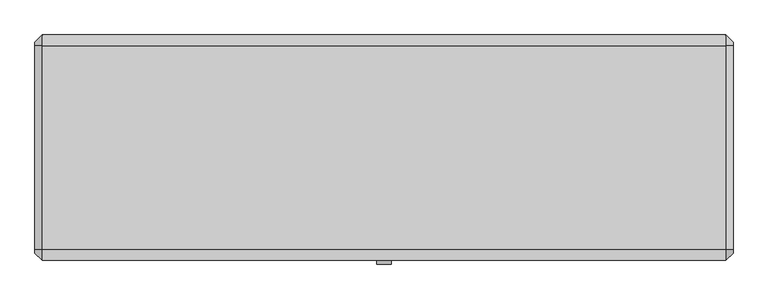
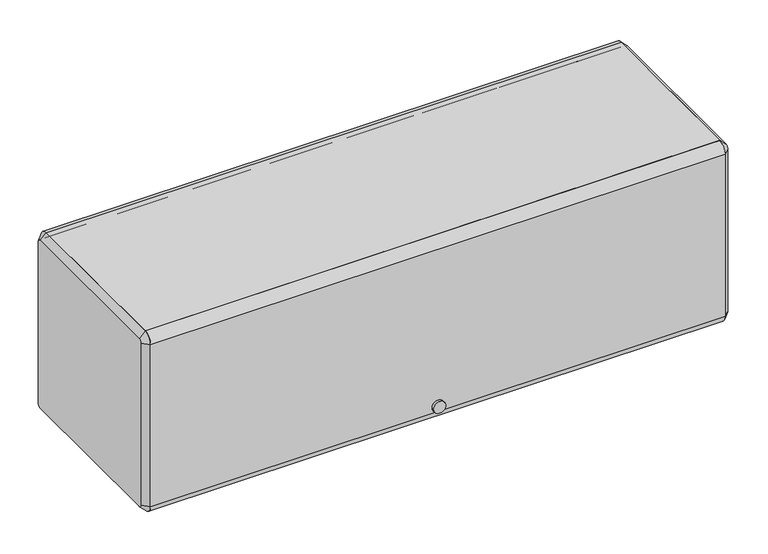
"""IFC4 building model written with IfcOpenShell, lengths in millimetres: furniture geometry."""

from ifc_helpers import new_model, si_unit, point, frame, frame_2d, origin, place, context, project, spatial, polyline, circle_curve, trimmed, segment, composite_curve, outline, extrude, source, transform, mapped, element, save
from ifc_brep_helpers import plane_surface, revolved_surface, advanced_brep


def furniture_82a65ebb(model_context):
    return source(origin(), model_context, "Body", "SolidModel", [
        extrude(outline(composite_curve([segment(polyline([(-165.1, 2089.15), (-165.1, 2101.85), (190.5, 2101.85)]), True, "CONTINUOUS"), segment(trimmed(circle_curve(frame_2d((190.5, 2082.8)), 19.05), [point((190.5, 2101.85))], [point((209.55, 2082.8))], False, "CARTESIAN"), True, "CONTINUOUS"), segment(polyline([(209.55, 2082.8), (196.85, 2082.8)]), True, "CONTINUOUS"), segment(trimmed(circle_curve(frame_2d((190.5, 2082.8)), 6.35), [point((196.85, 2082.8))], [point((190.5, 2089.15))], True, "CARTESIAN"), True, "CONTINUOUS"), segment(polyline([(190.5, 2089.15), (-165.1, 2089.15)]), True, "CONTINUOUS")], self_intersect=False)), frame((-596.9, 0.0, 0.0), z_axis=(1.0, 0.0, 0.0), x_axis=(0.0, 1.0, 0.0)), (0.0, 0.0, 1.0), 1193.8),
        extrude(outline(composite_curve([segment(trimmed(circle_curve(frame_2d((-165.1, 2082.8)), 19.05), [point((-184.15, 2082.8))], [point((-165.1, 2101.85))], False, "CARTESIAN"), True, "CONTINUOUS"), segment(polyline([(-165.1, 2101.85), (-165.1, 2089.15)]), True, "CONTINUOUS"), segment(trimmed(circle_curve(frame_2d((-165.1, 2082.8)), 6.35), [point((-165.1, 2089.15))], [point((-171.45, 2082.8))], True, "CARTESIAN"), True, "CONTINUOUS"), segment(polyline([(-171.45, 2082.8), (-171.45, 1727.2)]), True, "CONTINUOUS"), segment(trimmed(circle_curve(frame_2d((-165.1, 1727.2)), 6.35), [point((-171.45, 1727.2))], [point((-165.1, 1720.85))], True, "CARTESIAN"), True, "CONTINUOUS"), segment(polyline([(-165.1, 1720.85), (-165.1, 1708.15)]), True, "CONTINUOUS"), segment(trimmed(circle_curve(frame_2d((-165.1, 1727.2)), 19.05), [point((-165.1, 1708.15))], [point((-184.15, 1727.2))], False, "CARTESIAN"), True, "CONTINUOUS"), segment(polyline([(-184.15, 1727.2), (-184.15, 2082.8)]), True, "CONTINUOUS")], self_intersect=False)), frame((-596.9, 0.0, 0.0), z_axis=(1.0, 0.0, 0.0), x_axis=(0.0, 1.0, 0.0)), (0.0, 0.0, 1.0), 1193.8),
        extrude(outline(composite_curve([segment(trimmed(circle_curve(frame_2d((1739.8618906, 0.0201199)), 12.7253951), [point((1739.8618906, 12.745515))], [point((1739.8618906, -12.7052752))], False, "CARTESIAN"), True, "CONTINUOUS"), segment(trimmed(circle_curve(frame_2d((1739.8618906, 0.0201199)), 12.7253951), [point((1739.8618906, -12.7052752))], [point((1739.8618906, 12.745515))], False, "CARTESIAN"), True, "CONTINUOUS")], self_intersect=False)), frame((0.0, -190.5, 0.0), z_axis=(0.0, 1.0, 0.0), x_axis=(0.0, 0.0, 1.0)), (0.0, 0.0, 1.0), 6.35),
        extrude(outline(polyline([(-165.1, 1746.25), (190.5, 1746.25), (190.5, 1784.35), (203.2, 1784.35), (203.2, 1781.175), (193.675, 1781.175), (193.675, 1743.075), (-161.925, 1743.075), (-161.925, 1724.025), (-165.1, 1724.025), (-165.1, 1746.25)])), frame((-596.9, 0.0, 0.0), z_axis=(1.0, 0.0, 0.0), x_axis=(0.0, 1.0, 0.0)), (0.0, 0.0, 1.0), 1193.8),
        advanced_brep(
        [(609.6, 190.5, 2089.15), (609.6, -165.1, 2089.15), (609.6, -171.45, 2082.8), (609.6, -171.45, 1727.2), (609.6, -165.1, 1720.85), (609.6, 190.5, 1720.85), (609.6, 196.85, 1727.2), (609.6, 196.85, 2082.8), (596.9, 190.5, 2101.85), (596.9, 209.55, 2082.8), (596.9, 209.55, 1727.2), (596.9, 190.5, 1708.15), (596.9, -165.1, 1708.15), (596.9, -184.15, 1727.2), (596.9, -184.15, 2082.8), (596.9, -165.1, 2101.85)],
        [
            (0, 1),
            (1, 2, circle_curve(frame((609.6, -165.1, 2082.8), z_axis=(1.0, 1.5853984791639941e-12, -1.6626700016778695e-12), x_axis=(1.6627279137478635e-12, 0.0, 1.0)), 6.35)),
            (2, 3),
            (3, 4, circle_curve(frame((609.6, -165.1, 1727.2), z_axis=(1.0, -1.5347723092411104e-12, -1.5347723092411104e-12), x_axis=(-1.5347653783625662e-12, -1.0, 0.0)), 6.35)),
            (4, 5),
            (5, 6, circle_curve(frame((609.6, 190.5, 1727.2), z_axis=(1.0, -1.548094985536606e-12, 1.5347723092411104e-12), x_axis=(1.5347653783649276e-12, 0.0, -1.0)), 6.35)),
            (6, 7),
            (7, 0, circle_curve(frame((609.6, 190.5, 2082.8), z_axis=(1.0, 1.5507595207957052e-12, 1.4708234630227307e-12), x_axis=(-1.5507803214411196e-12, 1.0, 0.0)), 6.35)),
            (8, 9, circle_curve(frame((596.9, 190.5, 2082.8), z_axis=(-1.0, -1.5507595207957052e-12, -1.4708234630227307e-12), x_axis=(-1.5507803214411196e-12, 1.0, 0.0)), 19.05)),
            (9, 10),
            (10, 11, circle_curve(frame((596.9, 190.5, 1727.2), z_axis=(-1.0, 1.548094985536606e-12, -1.5347723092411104e-12), x_axis=(1.5347653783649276e-12, 0.0, -1.0)), 19.05)),
            (11, 12),
            (12, 13, circle_curve(frame((596.9, -165.1, 1727.2), z_axis=(-1.0, 1.5347723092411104e-12, 1.5347723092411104e-12), x_axis=(-1.5347653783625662e-12, -1.0, 0.0)), 19.05)),
            (13, 14),
            (14, 15, circle_curve(frame((596.9, -165.1, 2082.8), z_axis=(-1.0, -1.5853984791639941e-12, 1.6626700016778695e-12), x_axis=(1.6627279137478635e-12, 0.0, 1.0)), 19.05)),
            (15, 8),
            (15, 1),
            (0, 8),
            (14, 2),
            (13, 3),
            (12, 4),
            (11, 5),
            (10, 6),
            (9, 7),
        ],
        [
            plane_surface(frame((609.6, 12.7, 1905.0), z_axis=(1.0, 0.0, 0.0), x_axis=(0.0, -1.0, 0.0))),
            plane_surface(frame((596.9, 12.7, 1905.0), z_axis=(-1.0, 0.0, 0.0), x_axis=(0.0, -1.0, 0.0))),
            plane_surface(frame((596.9, 12.7, 2101.85), z_axis=(0.7071067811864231, 0.0, 0.7071067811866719), x_axis=(0.0, -1.0, 0.0))),
            revolved_surface(polyline([(609.6000000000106, -165.1, 2089.1499999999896), (596.9, -165.1, 2101.85)]), (615.95, -165.1, 2082.8), (-1.0, -1.5853984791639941e-12, 1.6626700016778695e-12)),
            plane_surface(frame((596.9, -184.15, 1905.0), z_axis=(0.7071067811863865, -0.7071067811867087, 0.0), x_axis=(0.0, 0.0, -1.0))),
            revolved_surface(polyline([(609.6, -171.45, 1727.2), (596.8999999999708, -184.15000000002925, 1727.2)]), (615.95, -165.1, 1727.2), (-1.0, 1.5347723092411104e-12, 1.5347723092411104e-12)),
            plane_surface(frame((596.9, 12.7, 1708.15), z_axis=(0.7071067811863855, 0.0, -0.7071067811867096), x_axis=(0.0, 1.0, 0.0))),
            revolved_surface(polyline([(609.6000000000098, 190.5, 1720.85000000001), (596.8999999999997, 190.5, 1708.1499999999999)]), (615.95, 190.5, 1727.2), (-1.0, 1.548094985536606e-12, -1.5347723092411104e-12)),
            plane_surface(frame((596.9, 209.55, 1905.0), z_axis=(0.7071067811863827, 0.7071067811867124, 0.0), x_axis=(0.0, 0.0, 1.0))),
            revolved_surface(polyline([(609.6, 196.85, 2082.8), (596.8999999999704, 209.55000000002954, 2082.8)]), (615.95, 190.5, 2082.8), (-1.0, -1.5507595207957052e-12, -1.4708234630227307e-12)),
        ],
        [
            (0, [[1, 2, 3, 4, 5, 6, 7, 8]]),
            (1, [[9, 10, 11, 12, 13, 14, 15, 16]]),
            (2, [[-16, 17, -1, 18]]),
            (3, [[-15, 19, -2, -17]]),
            (4, [[-14, 20, -3, -19]]),
            (5, [[-13, 21, -4, -20]]),
            (6, [[-12, 22, -5, -21]]),
            (7, [[-11, 23, -6, -22]]),
            (8, [[-10, 24, -7, -23]]),
            (9, [[-9, -18, -8, -24]]),
        ],
    ),
        advanced_brep(
        [(-609.6, -165.1, 2089.15), (-609.6, 190.5, 2089.15), (-609.6, 196.85, 2082.8), (-609.6, 196.85, 1727.2), (-609.6, 190.5, 1720.85), (-609.6, -165.1, 1720.85), (-609.6, -171.45, 1727.2), (-609.6, -171.45, 2082.8), (-596.9, -165.1, 2101.85), (-596.9, -184.15, 2082.8), (-596.9, -184.15, 1727.2), (-596.9, -165.1, 1708.15), (-596.9, 190.5, 1708.15), (-596.9, 209.55, 1727.2), (-596.9, 209.55, 2082.8), (-596.9, 190.5, 2101.85)],
        [
            (0, 1),
            (1, 2, circle_curve(frame((-609.6, 190.5, 2082.8), z_axis=(-1.0, -1.5640821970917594e-12, -1.470823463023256e-12), x_axis=(-1.4708626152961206e-12, 0.0, 1.0)), 6.35)),
            (2, 3),
            (3, 4, circle_curve(frame((-609.6, 190.5, 1727.2), z_axis=(-1.0, 0.0, 0.0), x_axis=(0.0, 1.0, 0.0)), 6.35)),
            (4, 5),
            (5, 6, circle_curve(frame((-609.6, -165.1, 1727.2), z_axis=(-1.0, 0.0, 0.0), x_axis=(0.0, 0.0, -1.0)), 6.35)),
            (6, 7),
            (7, 0, circle_curve(frame((-609.6, -165.1, 2082.8), z_axis=(-1.0, -1.5241141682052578e-12, 1.5774048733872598e-12), x_axis=(1.5240887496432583e-12, -1.0, 0.0)), 6.35)),
            (8, 9, circle_curve(frame((-596.9, -165.1, 2082.8), z_axis=(1.0, 1.5241141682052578e-12, -1.5774048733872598e-12), x_axis=(1.5240887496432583e-12, -1.0, 0.0)), 19.05)),
            (9, 10),
            (10, 11, circle_curve(frame((-596.9, -165.1, 1727.2), z_axis=(1.0, 0.0, 0.0), x_axis=(0.0, 0.0, -1.0)), 19.05)),
            (11, 12),
            (12, 13, circle_curve(frame((-596.9, 190.5, 1727.2), z_axis=(1.0, 0.0, 0.0), x_axis=(0.0, 1.0, 0.0)), 19.05)),
            (13, 14),
            (14, 15, circle_curve(frame((-596.9, 190.5, 2082.8), z_axis=(1.0, 1.5640821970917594e-12, 1.470823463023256e-12), x_axis=(-1.4708626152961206e-12, 0.0, 1.0)), 19.05)),
            (15, 8),
            (15, 1),
            (0, 8),
            (14, 2),
            (13, 3),
            (12, 4),
            (11, 5),
            (10, 6),
            (9, 7),
        ],
        [
            plane_surface(frame((-609.6, 12.7, 1905.0), z_axis=(-1.0, 0.0, 0.0), x_axis=(0.0, -1.0, 0.0))),
            plane_surface(frame((-596.9, 12.7, 1905.0), z_axis=(1.0, 0.0, 0.0), x_axis=(0.0, -1.0, 0.0))),
            plane_surface(frame((-596.9, 12.7, 2101.85), z_axis=(-0.7071067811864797, 0.0, 0.7071067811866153), x_axis=(0.0, 1.0, 0.0))),
            revolved_surface(polyline([(-609.6000000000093, 190.5, 2089.1499999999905), (-596.8999999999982, 190.5, 2101.8500000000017)]), (-615.95, 190.5, 2082.8), (1.0, 1.5640821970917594e-12, 1.470823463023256e-12)),
            plane_surface(frame((-596.9, 209.55, 1905.0), z_axis=(-0.7071067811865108, 0.7071067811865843, 0.0), x_axis=(0.0, 0.0, -1.0))),
            revolved_surface(polyline([(-609.6, 196.85, 1727.2), (-596.9, 209.55, 1727.2)]), (-615.95, 190.5, 1727.2), (1.0, 0.0, 0.0)),
            plane_surface(frame((-596.9, 12.7, 1708.15), z_axis=(-0.7071067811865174, 0.0, -0.7071067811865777), x_axis=(0.0, -1.0, 0.0))),
            revolved_surface(polyline([(-609.6, -165.1, 1720.8500000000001), (-596.9, -165.1, 1708.15)]), (-615.95, -165.1, 1727.2), (1.0, 0.0, 0.0)),
            plane_surface(frame((-596.9, -184.15, 1905.0), z_axis=(-0.7071067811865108, -0.7071067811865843, 0.0), x_axis=(0.0, 0.0, 1.0))),
            revolved_surface(polyline([(-609.6000000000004, -171.44999999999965, 2082.8), (-596.899999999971, -184.15000000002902, 2082.8)]), (-615.95, -165.1, 2082.8), (1.0, 1.5241141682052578e-12, -1.5774048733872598e-12)),
        ],
        [
            (0, [[1, 2, 3, 4, 5, 6, 7, 8]]),
            (1, [[9, 10, 11, 12, 13, 14, 15, 16]]),
            (2, [[-16, 17, -1, 18]]),
            (3, [[-15, 19, -2, -17]]),
            (4, [[-14, 20, -3, -19]]),
            (5, [[-13, 21, -4, -20]]),
            (6, [[-12, 22, -5, -21]]),
            (7, [[-11, 23, -6, -22]]),
            (8, [[-10, 24, -7, -23]]),
            (9, [[-9, -18, -8, -24]]),
        ],
    ),
    ])


if __name__ == "__main__":
    model = new_model("IFC4")
    model_context = context("Model", 3, world=origin())
    ifc_project = project(units=[si_unit("LENGTHUNIT", "METRE", prefix="MILLI")], contexts=[model_context])
    site = spatial("IfcSite", under=ifc_project)
    building = spatial("IfcBuilding", under=site)
    placement = place(None, origin())
    furniture_shape = furniture_82a65ebb(model_context)
    element("IfcFurniture", 1, ObjectType="HermanMiller_ActionOffice_A3352_B-StyleFlipperDoorUnit : 15 1/2\"H x 16\"D x 48\"W", at=placement, inside=building, context=model_context, shape_type="MappedRepresentation", body=[
        mapped(furniture_shape, transform((0.0, 0.0, 0.0), x_axis=(1.0, 0.0, 0.0), y_axis=(0.0, 1.0, 0.0), z_axis=(0.0, 0.0, 1.0))),
    ])
    save(model, "model.ifc")
